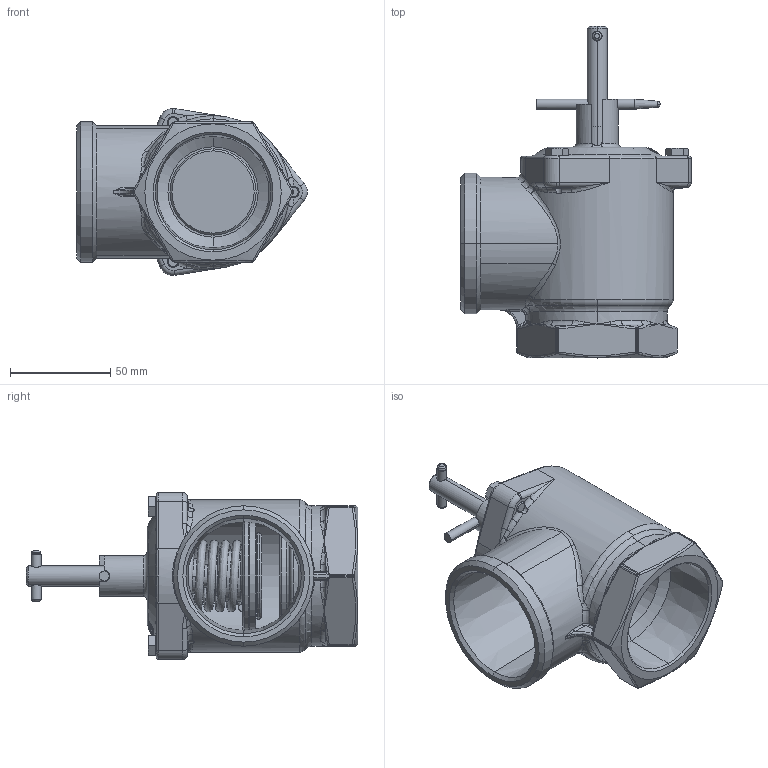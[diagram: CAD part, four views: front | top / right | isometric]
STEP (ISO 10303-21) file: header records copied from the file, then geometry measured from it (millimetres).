
FILE_DESCRIPTION (( 'STEP AP203' ), '1' );
FILE_NAME ('KP_15-050S.step', '2011-08-08T12:05:24', ( '' ), ( '' ), 'SwSTEP 2.0', 'SolidWorks 2011', '' );
FILE_SCHEMA (( 'CONFIG_CONTROL_DESIGN' ));
Length unit declared in the file: millimetre
Products named in the file (1): KP_15-050S
Bounding box: 115 x 165.5 x 83.28 mm (x, y, z)
Volume: 253083.9 mm3; surface area: 99846.6 mm2
Topology: 2 solids, 7 shells, 834 faces, 2059 edges, 1239 vertices
Faces by surface type: bspline 208, plane 169, torus 161, cylinder 159, cone 89, sphere 48
Entity records: 41235 total; most frequent: CARTESIAN_POINT 23111, ORIENTED_EDGE 4056, DIRECTION 3463, EDGE_CURVE 2028, AXIS2_PLACEMENT_3D 1513, VERTEX_POINT 1239, CIRCLE 886, EDGE_LOOP 881
